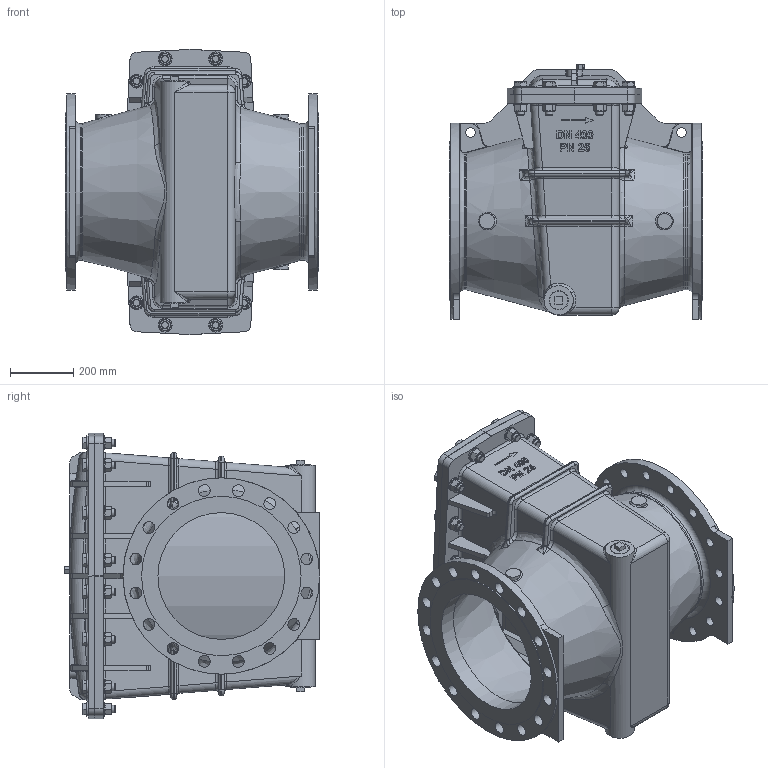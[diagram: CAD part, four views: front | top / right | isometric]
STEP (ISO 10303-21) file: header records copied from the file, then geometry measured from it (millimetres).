
FILE_DESCRIPTION(/* description */ (''),/* implementation_level */ '2;1');
FILE_NAME(/* name */ 'G:\Doc_Liberes\SymbolesCAD\Modeles_3D\FichierSTP\Aqua\Aqua90501\FAB400_25.stp',/* time_stamp */ '2017-11-27T10:41:09+01:00',/* author */ ('Cédric'),/* organization */ (''),/* preprocessor_version */ 'ST-DEVELOPER v16.13',/* originating_system */ 'Autodesk Inventor 2018',/* authorisation */ '');
FILE_SCHEMA (('AUTOMOTIVE_DESIGN { 1 0 10303 214 3 1 1 }'));
Length unit declared in the file: millimetre
Products named in the file (15): FAB40025; 58074-40; 58070-40; 58073; 58073_1; 58073-01; 58072-40; 57576-02; 57576-07; 57507; ISO 4144 Bouchon mâle T8 2; 300656-11; ISO 4017 - M24 x 90; ISO 7089 - 24 - 140 HV; ISO 4032 - M24
Assembly tree (76 placements, depth 3):
  FAB40025
    58074-40
    58070-40
    58073
      58073_1
      58073-01
    58072-40
    57576-02
      57576-07
      57507
    ISO 4144 Bouchon mâle T8 2  x2
    ISO 4017 - M24 x 90  x16
    ISO 4032 - M24  x16
    ISO 7089 - 24 - 140 HV  x32
    300656-11
Bounding box: 800 x 805 x 900 mm (x, y, z)
Volume: 63823656.4 mm3; surface area: 8566355 mm2
Topology: 74 solids, 74 shells, 3529 faces, 8790 edges, 5499 vertices
Faces by surface type: plane 1412, cylinder 978, bspline 660, torus 259, cone 202, sphere 18
Full cylindrical faces by diameter (mm): 1.6 x1, 2.3 x1, 6.5 x1, 6.92 x1, 8 x1, 10 x4, 13.84 x2, 14 x1, 18.63 x1, 20.752 x16, 20.955 x1, 22 x16, 24 x16, 25 x32, 26 x16, 30 x2, 31 x16, 33.61 x16, 37 x16, 44 x32, 48 x2, 52.9 x2, 56.66 x2, 400 x2, 503 x2, 620 x2
Entity records: 120603 total; most frequent: CARTESIAN_POINT 51886, ORIENTED_EDGE 14674, DIRECTION 13065, EDGE_CURVE 7337, AXIS2_PLACEMENT_3D 4830, VERTEX_POINT 4653, LINE 3405, VECTOR 3405
